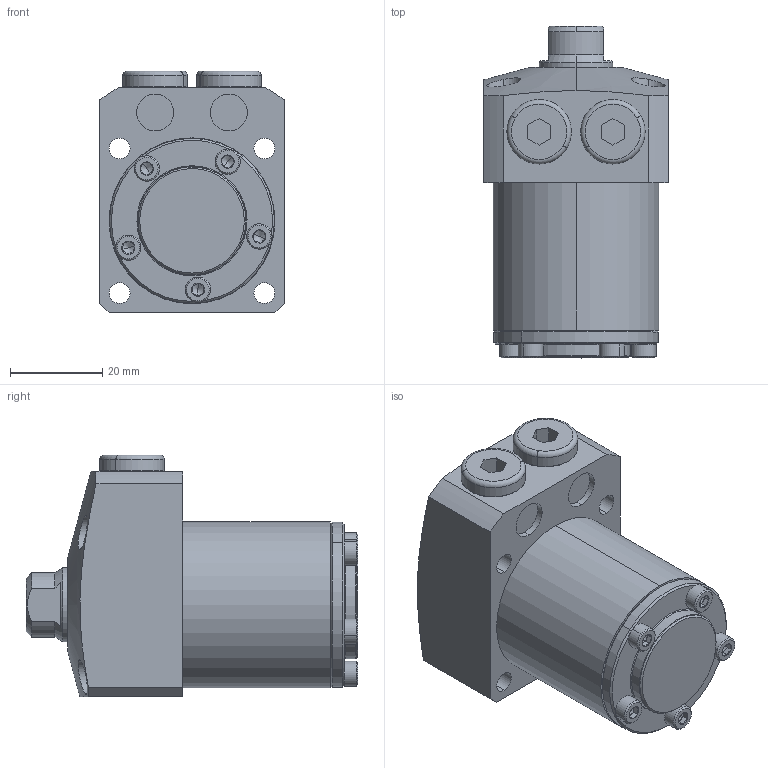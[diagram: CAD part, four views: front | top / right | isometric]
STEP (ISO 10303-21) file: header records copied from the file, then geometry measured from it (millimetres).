
FILE_DESCRIPTION (( 'STEP AP203' ), '1' );
FILE_NAME ('680360-CA-030.step', '2016-11-02T03:16:33', ( 'wxp' ), ( '' ), 'SwSTEP 2.0', 'SolidWorks 2011', '' );
FILE_SCHEMA (( 'CONFIG_CONTROL_DESIGN' ));
Length unit declared in the file: millimetre
Products named in the file (6): 680360-CA-030; 5^680360-CA-030; 4^680360-CA-030; 3^680360-CA-030; 2^680360-CA-030; 1^680360-CA-030
Assembly tree (10 placements, depth 2):
  680360-CA-030
    5^680360-CA-030  x2
    4^680360-CA-030  x5
    1^680360-CA-030
    3^680360-CA-030
    2^680360-CA-030
Bounding box: 40 x 72 x 52.5 mm (x, y, z)
Volume: 84194.1 mm3; surface area: 21480.9 mm2
Topology: 10 solids, 10 shells, 312 faces, 615 edges, 341 vertices
Faces by surface type: plane 125, cylinder 87, cone 84, torus 16
Entity records: 5529 total; most frequent: CARTESIAN_POINT 1131, DIRECTION 843, ORIENTED_EDGE 686, AXIS2_PLACEMENT_3D 353, EDGE_CURVE 343, VERTEX_POINT 209, EDGE_LOOP 198, CIRCLE 178
